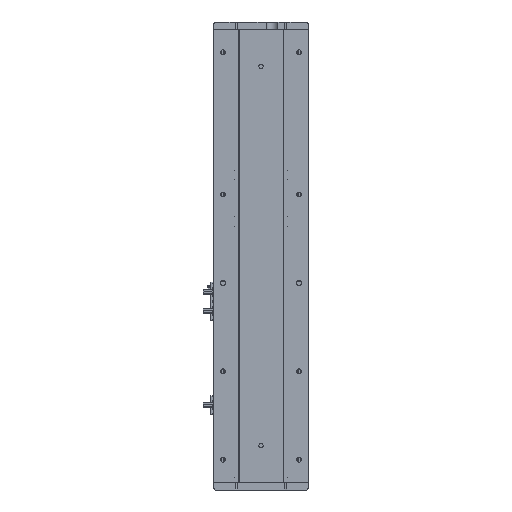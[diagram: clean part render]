
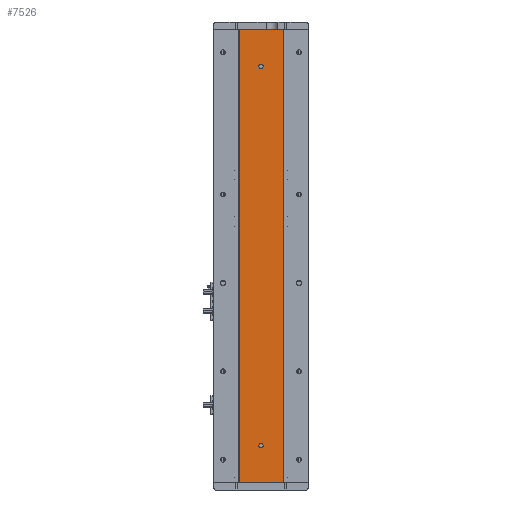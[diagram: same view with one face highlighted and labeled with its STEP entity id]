
A CAD part, left-side view. The second image highlights one B-rep face of the part: STEP entity #7526.
In plain terms, the highlighted planar face has unit normal (-1, 0, 0).
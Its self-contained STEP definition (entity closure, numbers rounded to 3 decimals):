
#76 = EDGE_CURVE ( 'NONE', #7656, #15793, #6353, .T. ) ;
#199 = AXIS2_PLACEMENT_3D ( 'NONE', #8879, #25626, #11274 ) ;
#384 = VECTOR ( 'NONE', #5113, 1000. ) ;
#3128 = CARTESIAN_POINT ( 'NONE',  ( -24.994, 0., 568. ) ) ;
#3246 = CARTESIAN_POINT ( 'NONE',  ( -24.994, 29.785, 615. ) ) ;
#3461 = EDGE_CURVE ( 'NONE', #13613, #23402, #30300, .T. ) ;
#3876 = AXIS2_PLACEMENT_3D ( 'NONE', #4043, #20795, #6455 ) ;
#4043 = CARTESIAN_POINT ( 'NONE',  ( -24.994, 0., 565. ) ) ;
#4210 = FACE_BOUND ( 'NONE', #19242, .T. ) ;
#4380 = CARTESIAN_POINT ( 'NONE',  ( -24.994, 29.785, 615. ) ) ;
#4736 = EDGE_CURVE ( 'NONE', #5842, #23474, #30676, .T. ) ;
#5113 = DIRECTION ( 'NONE',  ( 0., 0., -1. ) ) ;
#5129 = DIRECTION ( 'NONE',  ( 1., 0., 0. ) ) ;
#5842 = VERTEX_POINT ( 'NONE', #22164 ) ;
#5864 = EDGE_CURVE ( 'NONE', #21826, #23474, #15953, .T. ) ;
#5982 = CARTESIAN_POINT ( 'NONE',  ( -24.994, 0., 50. ) ) ;
#6353 = CIRCLE ( 'NONE', #199, 3. ) ;
#6455 = DIRECTION ( 'NONE',  ( 0., 0., 1. ) ) ;
#6553 = DIRECTION ( 'NONE',  ( -1., 0., 0. ) ) ;
#6972 = VECTOR ( 'NONE', #15197, 1000. ) ;
#7308 = ORIENTED_EDGE ( 'NONE', *, *, #76, .F. ) ;
#7432 = PLANE ( 'NONE',  #21690 ) ;
#7526 = ADVANCED_FACE ( 'NONE', ( #4210, #11316, #23283 ), #7432, .F. ) ;
#7656 = VERTEX_POINT ( 'NONE', #3128 ) ;
#7705 = LINE ( 'NONE', #3246, #25287 ) ;
#8402 = DIRECTION ( 'NONE',  ( 0., 0., 1. ) ) ;
#8879 = CARTESIAN_POINT ( 'NONE',  ( -24.994, 0., 565. ) ) ;
#10021 = EDGE_CURVE ( 'NONE', #16416, #21826, #25444, .T. ) ;
#11274 = DIRECTION ( 'NONE',  ( 0., 0., 1. ) ) ;
#11292 = AXIS2_PLACEMENT_3D ( 'NONE', #20896, #6553, #23274 ) ;
#11316 = FACE_BOUND ( 'NONE', #12213, .T. ) ;
#12191 = ORIENTED_EDGE ( 'NONE', *, *, #26459, .F. ) ;
#12213 = EDGE_LOOP ( 'NONE', ( #22642, #22288 ) ) ;
#12713 = VECTOR ( 'NONE', #25817, 1000. ) ;
#13613 = VERTEX_POINT ( 'NONE', #29986 ) ;
#14451 = ORIENTED_EDGE ( 'NONE', *, *, #5864, .T. ) ;
#15197 = DIRECTION ( 'NONE',  ( 0., -1., 0. ) ) ;
#15710 = CIRCLE ( 'NONE', #27946, 3. ) ;
#15793 = VERTEX_POINT ( 'NONE', #22994 ) ;
#15953 = LINE ( 'NONE', #29486, #6972 ) ;
#16416 = VERTEX_POINT ( 'NONE', #4380 ) ;
#16422 = CIRCLE ( 'NONE', #3876, 3. ) ;
#16709 = ORIENTED_EDGE ( 'NONE', *, *, #10021, .T. ) ;
#17945 = EDGE_CURVE ( 'NONE', #23402, #13613, #15710, .T. ) ;
#18654 = EDGE_LOOP ( 'NONE', ( #14451, #19672, #12191, #16709 ) ) ;
#19242 = EDGE_LOOP ( 'NONE', ( #7308, #30146 ) ) ;
#19427 = CARTESIAN_POINT ( 'NONE',  ( -24.994, -29.785, 615. ) ) ;
#19450 = CARTESIAN_POINT ( 'NONE',  ( -24.994, 29.785, 615. ) ) ;
#19672 = ORIENTED_EDGE ( 'NONE', *, *, #4736, .F. ) ;
#20795 = DIRECTION ( 'NONE',  ( -1., 0., 0. ) ) ;
#20896 = CARTESIAN_POINT ( 'NONE',  ( -24.994, 0., 50. ) ) ;
#21690 = AXIS2_PLACEMENT_3D ( 'NONE', #19450, #5129, #21845 ) ;
#21826 = VERTEX_POINT ( 'NONE', #21961 ) ;
#21845 = DIRECTION ( 'NONE',  ( 0., 0., -1. ) ) ;
#21961 = CARTESIAN_POINT ( 'NONE',  ( -24.994, 29.785, 0. ) ) ;
#22164 = CARTESIAN_POINT ( 'NONE',  ( -24.994, -29.785, 615. ) ) ;
#22288 = ORIENTED_EDGE ( 'NONE', *, *, #3461, .F. ) ;
#22642 = ORIENTED_EDGE ( 'NONE', *, *, #17945, .F. ) ;
#22693 = DIRECTION ( 'NONE',  ( -1., 0., 0. ) ) ;
#22994 = CARTESIAN_POINT ( 'NONE',  ( -24.994, 0., 562. ) ) ;
#23274 = DIRECTION ( 'NONE',  ( 0., 0., 1. ) ) ;
#23283 = FACE_OUTER_BOUND ( 'NONE', #18654, .T. ) ;
#23398 = CARTESIAN_POINT ( 'NONE',  ( -24.994, 29.785, 615. ) ) ;
#23402 = VERTEX_POINT ( 'NONE', #24185 ) ;
#23474 = VERTEX_POINT ( 'NONE', #29392 ) ;
#24185 = CARTESIAN_POINT ( 'NONE',  ( -24.994, 0., 53. ) ) ;
#25287 = VECTOR ( 'NONE', #29491, 1000. ) ;
#25444 = LINE ( 'NONE', #23398, #12713 ) ;
#25626 = DIRECTION ( 'NONE',  ( -1., 0., 0. ) ) ;
#25817 = DIRECTION ( 'NONE',  ( 0., 0., -1. ) ) ;
#26459 = EDGE_CURVE ( 'NONE', #16416, #5842, #7705, .T. ) ;
#27099 = EDGE_CURVE ( 'NONE', #15793, #7656, #16422, .T. ) ;
#27946 = AXIS2_PLACEMENT_3D ( 'NONE', #5982, #22693, #8402 ) ;
#29392 = CARTESIAN_POINT ( 'NONE',  ( -24.994, -29.785, 0. ) ) ;
#29486 = CARTESIAN_POINT ( 'NONE',  ( -24.994, 29.785, 0. ) ) ;
#29491 = DIRECTION ( 'NONE',  ( 0., -1., 0. ) ) ;
#29986 = CARTESIAN_POINT ( 'NONE',  ( -24.994, 0., 47. ) ) ;
#30146 = ORIENTED_EDGE ( 'NONE', *, *, #27099, .F. ) ;
#30300 = CIRCLE ( 'NONE', #11292, 3. ) ;
#30676 = LINE ( 'NONE', #19427, #384 ) ;
